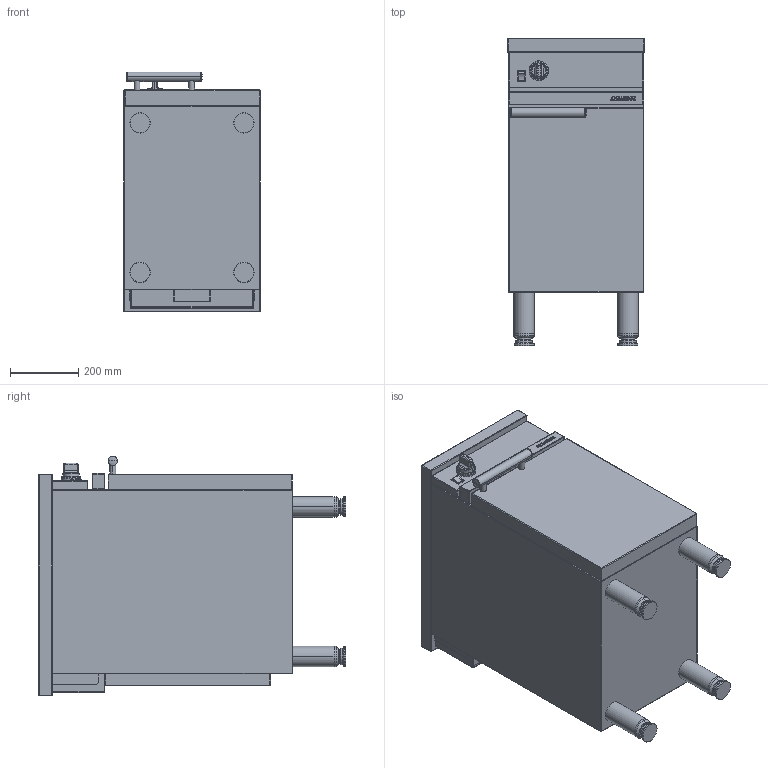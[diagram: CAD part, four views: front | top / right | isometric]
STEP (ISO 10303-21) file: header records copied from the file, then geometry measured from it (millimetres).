
FILE_DESCRIPTION((''),'2;1');
FILE_NAME('CME401CA_CPM_D_EXPORT_STEP_ASM','2017-11-22T',('r.avril'),(''),'PRO/ENGINEER BY PARAMETRIC TECHNOLOGY CORPORATION, 2014200','PRO/ENGINEER BY PARAMETRIC TECHNOLOGY CORPORATION, 2014200','');
FILE_SCHEMA(('AP203_CONFIGURATION_CONTROLLED_3D_DESIGN_OF_MECHANICAL_PARTS_AND_ASSEMBLIES_MIM_LF { 1 0 10303 403 2 1 2 }'));
Length unit declared in the file: millimetre
Products named in the file (6): MODULES_AMB_400_EXPORT_STEP; TABLE_400_NEUTRE; MANETTE_AMB_EXPORT_STEP; BASCULEUR_AMB_EXPORT_DXF; PORTE_MODULE_AMB_400D; CME401CA_CPM_D_EXPORT_STEP_ASM
Assembly tree (5 placements, depth 2):
  CME401CA_CPM_D_EXPORT_STEP_ASM
    MODULES_AMB_400_EXPORT_STEP
    TABLE_400_NEUTRE
    MANETTE_AMB_EXPORT_STEP
    BASCULEUR_AMB_EXPORT_DXF
    PORTE_MODULE_AMB_400D
Bounding box: 400 x 900 x 703 mm (x, y, z)
Volume: 66794412.1 mm3; surface area: 4453561.1 mm2
Topology: 14 solids, 32 shells, 407 faces, 1509 edges, 1401 vertices
Faces by surface type: cylinder 154, plane 133, sphere 50, torus 36, cone 22, bspline 12
Entity records: 20894 total; most frequent: CARTESIAN_POINT 5605, DIRECTION 2449, ORIENTED_EDGE 2072, EDGE_CURVE 1261, VERTEX_POINT 917, AXIS2_PLACEMENT_3D 881, VECTOR 669, LINE 669
